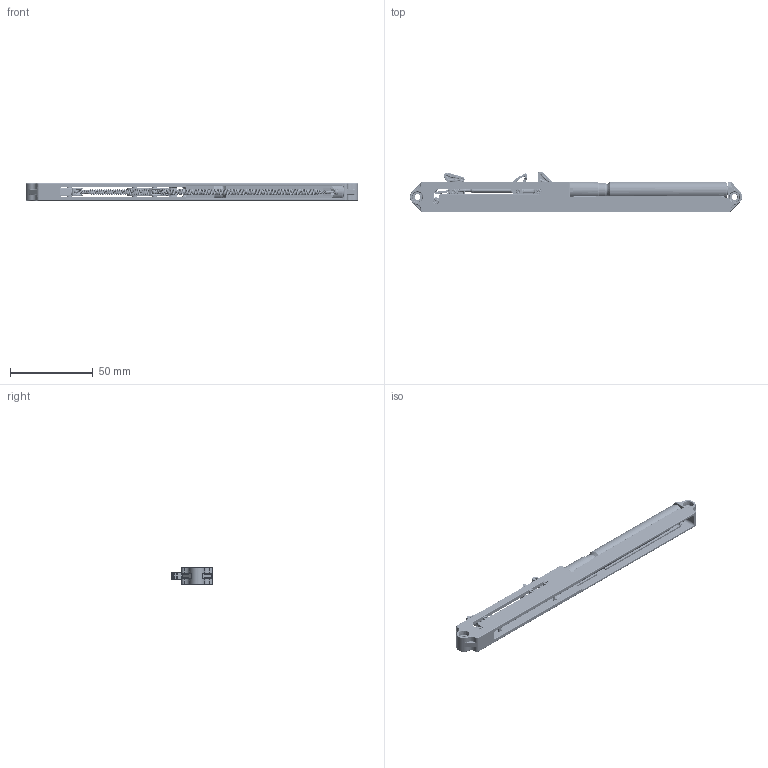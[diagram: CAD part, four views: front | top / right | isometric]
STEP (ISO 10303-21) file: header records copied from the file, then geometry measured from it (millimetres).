
FILE_DESCRIPTION((''),'2;1');
FILE_NAME('ASM0001_SW0001','2020-06-15T',('pcammann'),(''),'CREO PARAMETRIC BY PTC INC, 2017020','CREO PARAMETRIC BY PTC INC, 2017020','');
FILE_SCHEMA(('AUTOMOTIVE_DESIGN { 1 0 10303 214 1 1 1 1 }'));
Length unit declared in the file: millimetre
Products named in the file (1): ASM0001_SW0001
Bounding box: 200.97 x 24.48 x 10.4 mm (x, y, z)
Volume: 22089.8 mm3; surface area: 25319.7 mm2
Topology: 1 solids, 2 shells, 2445 faces, 6342 edges, 3721 vertices
Faces by surface type: cylinder 764, bspline 619, torus 576, plane 331, sphere 96, cone 53, extrusion 6
Entity records: 218555 total; most frequent: CARTESIAN_POINT 125780, ORIENTED_EDGE 12670, DIRECTION 10255, PRESENTATION_STYLE_ASSIGNMENT 8771, STYLED_ITEM 6342, CURVE_STYLE 6341, EDGE_CURVE 6335, AXIS2_PLACEMENT_3D 4383
